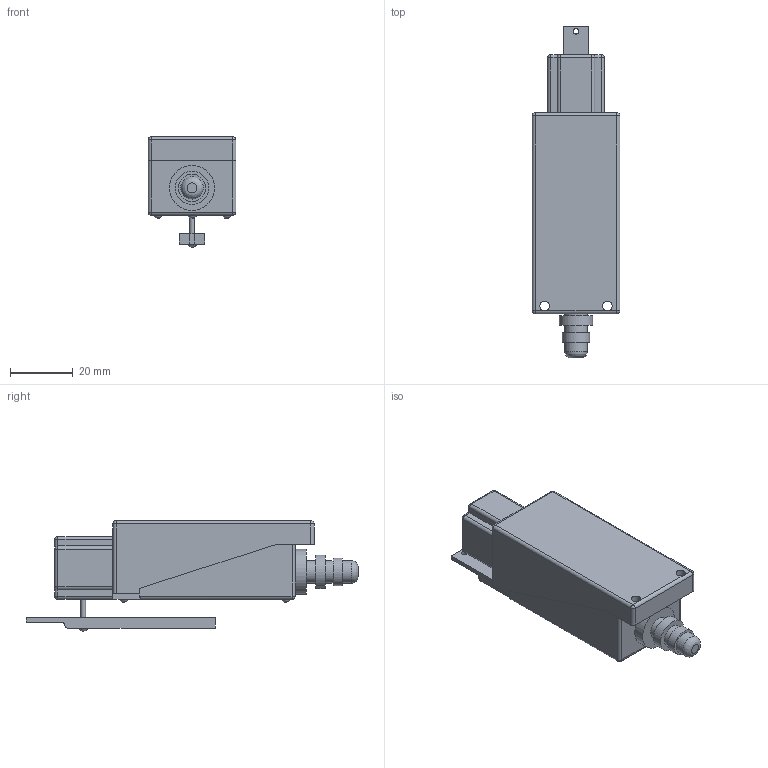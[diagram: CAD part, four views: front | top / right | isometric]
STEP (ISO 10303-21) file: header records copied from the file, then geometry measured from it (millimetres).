
FILE_DESCRIPTION(/* description */ (''),/* implementation_level */ '2;1');
FILE_NAME(/* name */ 'D:\CHINT3\YBLX-ME_8107.stp',/* time_stamp */ '2017-12-11T20:17:16+03:00',/* author */ ('RSagdiev'),/* organization */ (''),/* preprocessor_version */ 'ST-DEVELOPER v16.5',/* originating_system */ 'Autodesk Inventor 2017',/* authorisation */ '');
FILE_SCHEMA (('AUTOMOTIVE_DESIGN { 1 0 10303 214 3 1 1 }'));
Length unit declared in the file: millimetre
Products named in the file (1): YBLX-ME_8107
Bounding box: 28 x 105.64 x 35.13 mm (x, y, z)
Volume: 50033.7 mm3; surface area: 15585.8 mm2
Topology: 9 solids, 9 shells, 138 faces, 296 edges, 181 vertices
Faces by surface type: plane 63, cylinder 56, sphere 17, bspline 2
Full cylindrical faces by diameter (mm): 1.5 x1, 1.78 x1, 3 x10, 7.163 x3, 8.723 x1, 10.59 x1, 14.326 x1
Entity records: 3631 total; most frequent: DIRECTION 650, CARTESIAN_POINT 635, ORIENTED_EDGE 534, EDGE_CURVE 267, AXIS2_PLACEMENT_3D 248, VERTEX_POINT 173, EDGE_LOOP 172, LINE 154
